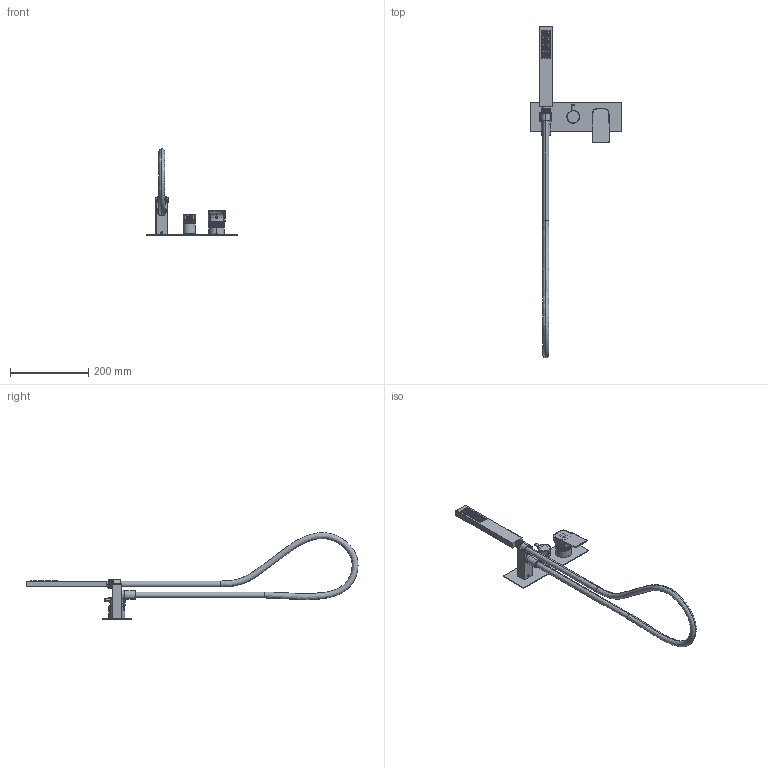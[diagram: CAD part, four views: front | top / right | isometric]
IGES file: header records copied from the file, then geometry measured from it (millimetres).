
Start section:  PTC IGES file: 75529v3_sw0001.igs
Global section: file name: 75529v3_sw0001.igs; native system: Creo Parametric by PTC Inc.; preprocessor: 2022014; author: volponeff; organization: Unknown; date: 20241008.094056; units: millimetre
Bounding box: 235 x 848.22 x 221.18 mm (x, y, z)
Surface area: 225493.9 mm2 (no closed solid volume)
Topology: 0 solids, 0 shells, 2046 faces, 10364 edges, 10334 vertices
Faces by surface type: revolution 1337, bspline 709
